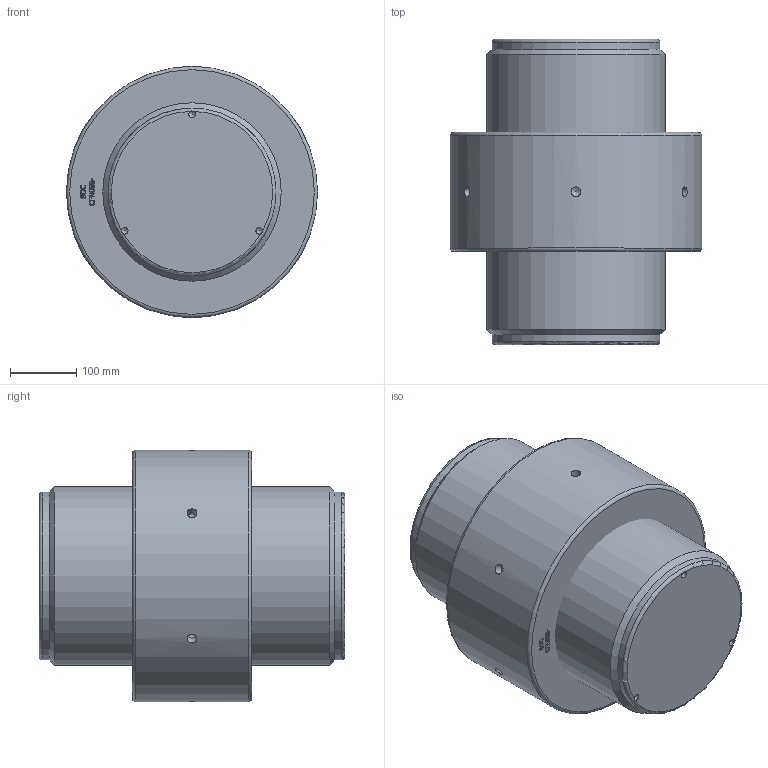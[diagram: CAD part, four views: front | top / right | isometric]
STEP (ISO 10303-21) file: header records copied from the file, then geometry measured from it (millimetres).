
FILE_DESCRIPTION(/* description */ (''),/* implementation_level */ '2;1');
FILE_NAME(/* name */ 'F:\Clienti LS\Redaelli\CYT\CYT\ARRNGEMENT\CYT088 61 061 0.stp',/* time_stamp */ '2021-05-09T08:51:42+02:00',/* author */ ('ranca'),/* organization */ (''),/* preprocessor_version */ 'ST-DEVELOPER v16.13',/* originating_system */ 'Autodesk Inventor 2018',/* authorisation */ '');
FILE_SCHEMA (('AUTOMOTIVE_DESIGN { 1 0 10303 214 3 1 1 }'));
Length unit declared in the file: millimetre
Products named in the file (3): CYT012-61-061-0; CYT012-61-061-0_1; CYT012-61-061-0_DADO
Assembly tree (2 placements, depth 2):
  CYT012-61-061-0
    CYT012-61-061-0_1
    CYT012-61-061-0_DADO
Bounding box: 380 x 462 x 380 mm (x, y, z)
Volume: 36753055.2 mm3; surface area: 977157.2 mm2
Topology: 2 solids, 2 shells, 370 faces, 1007 edges, 670 vertices
Faces by surface type: bspline 224, plane 117, cylinder 14, cone 11, torus 4
Full cylindrical faces by diameter (mm): 10.106 x3, 15 x6, 254 x2, 263.505 x1, 270 x1, 380 x1
Entity records: 12774 total; most frequent: CARTESIAN_POINT 5126, ORIENTED_EDGE 1916, EDGE_CURVE 958, DIRECTION 825, VERTEX_POINT 650, LINE 467, VECTOR 467, B_SPLINE_CURVE_WITH_KNOTS 463
